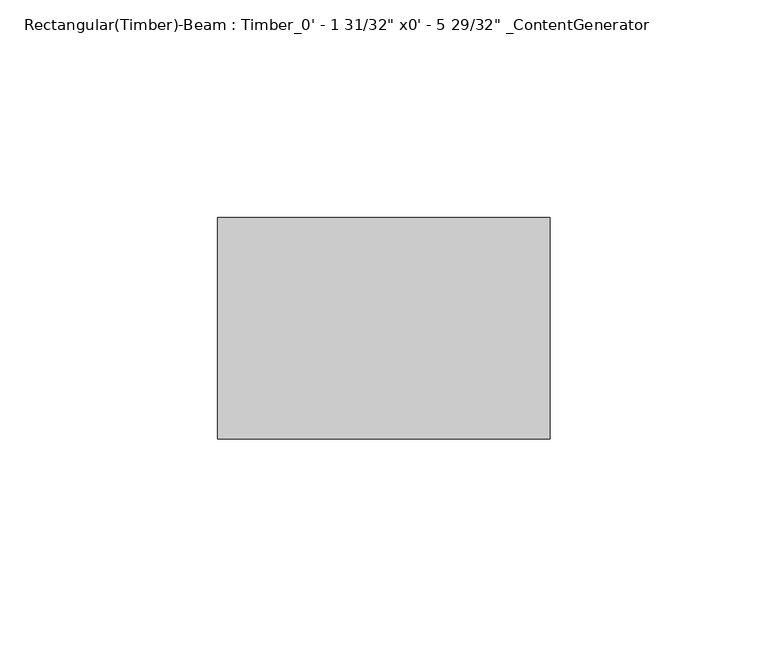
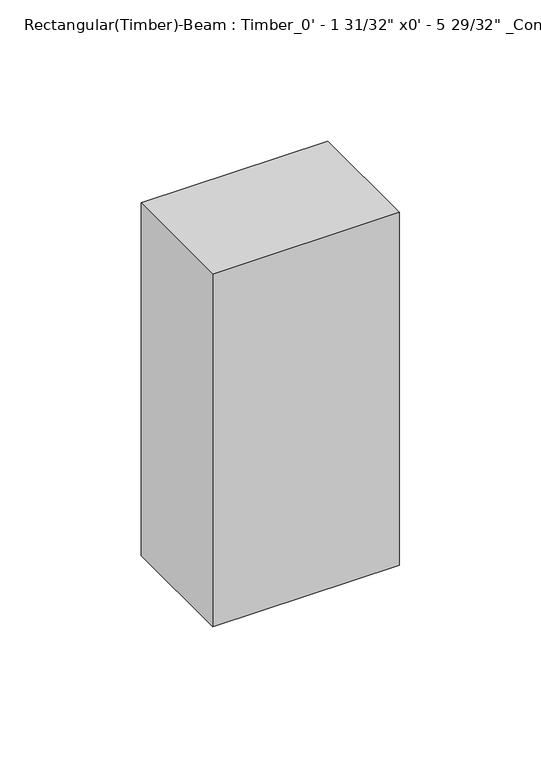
"""IFC4 building model written with IfcOpenShell, lengths in millimetres: beam geometry."""

from ifc_helpers import new_model, si_unit, frame, origin, place, context, project, spatial, polyline, outline, extrude, source, transform, mapped, element, save


def beam_4ebb4f1d(model_context):
    return source(origin(), model_context, "Body", "SweptSolid", [
        extrude(outline(polyline([(50.7999994, 25.4), (50.7999994, -25.4), (-25.4, -25.4), (-25.4, 25.4), (50.7999994, 25.4)])), frame((0.0, 0.0, -76.2), z_axis=(0.0, 0.0, 1.0), x_axis=(1.0, 0.0, 0.0)), (0.0, 0.0, 1.0), 152.4),
    ])


if __name__ == "__main__":
    model = new_model("IFC4")
    model_context = context("Model", 3, world=origin())
    ifc_project = project(units=[si_unit("LENGTHUNIT", "METRE", prefix="MILLI")], contexts=[model_context])
    site = spatial("IfcSite", under=ifc_project)
    building = spatial("IfcBuilding", under=site)
    placement = place(None, origin())
    beam_shape = beam_4ebb4f1d(model_context)
    element("IfcBeam", 1, ObjectType="Rectangular(Timber)-Beam : Timber_0' - 1 31/32\" x0' - 5 29/32\" _ContentGenerator", at=placement, inside=building, context=model_context, shape_type="MappedRepresentation", body=[
        mapped(beam_shape, transform((0.0, 0.0, 0.0), x_axis=(1.0, 0.0, 0.0), y_axis=(0.0, 1.0, 0.0), z_axis=(0.0, 0.0, 1.0))),
    ])
    save(model, "model.ifc")
